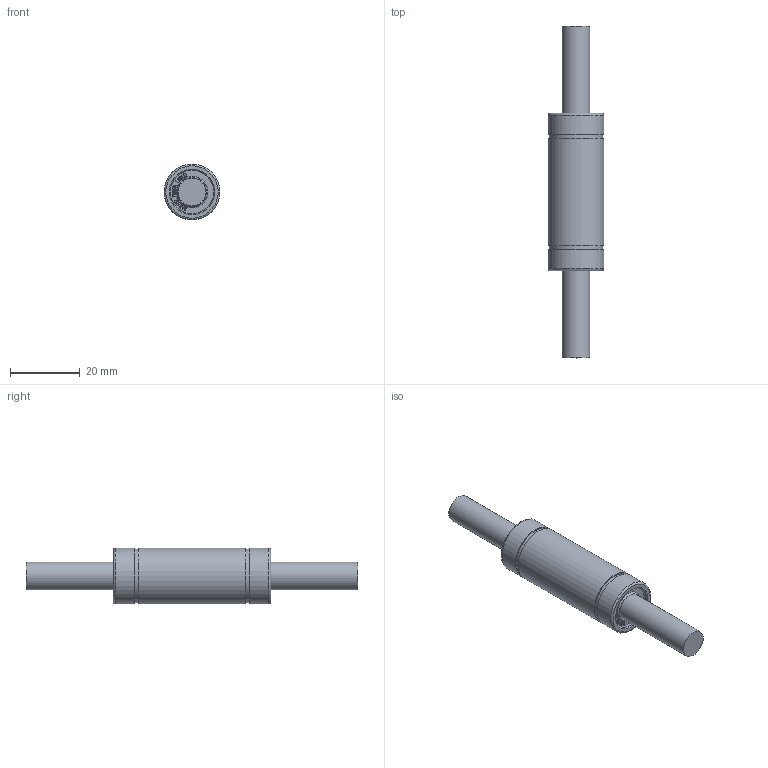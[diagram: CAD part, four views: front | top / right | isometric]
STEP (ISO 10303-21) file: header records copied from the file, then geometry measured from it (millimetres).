
FILE_DESCRIPTION(/* description */ (''),/* implementation_level */ '2;1');
FILE_NAME(/* name */ 'W:\(01) 2024년 홈페이지 CAD파일 최신화\LME_L\IPT\LME08LUU.stp',/* time_stamp */ '2025-01-25T09:36:14+09:00',/* author */ ('서우현'),/* organization */ (''),/* preprocessor_version */ 'ST-DEVELOPER v17.2',/* originating_system */ 'Autodesk Inventor 2019',/* authorisation */ '');
FILE_SCHEMA (('AUTOMOTIVE_DESIGN { 1 0 10303 214 3 1 1 }'));
Length unit declared in the file: millimetre
Products named in the file (1): LM5
Bounding box: 16 x 95 x 16 mm (x, y, z)
Volume: 11334.9 mm3; surface area: 4129.1 mm2
Topology: 1 solids, 1 shells, 813 faces, 2293 edges, 1536 vertices
Faces by surface type: bspline 580, plane 218, cylinder 9, cone 4, torus 2
Full cylindrical faces by diameter (mm): 8 x2, 12.4 x2, 15.2 x2, 16 x3
Entity records: 28086 total; most frequent: CARTESIAN_POINT 10555, ORIENTED_EDGE 4586, EDGE_CURVE 2293, DIRECTION 1655, VERTEX_POINT 1536, B_SPLINE_CURVE_WITH_KNOTS 1160, LINE 1079, VECTOR 1079
